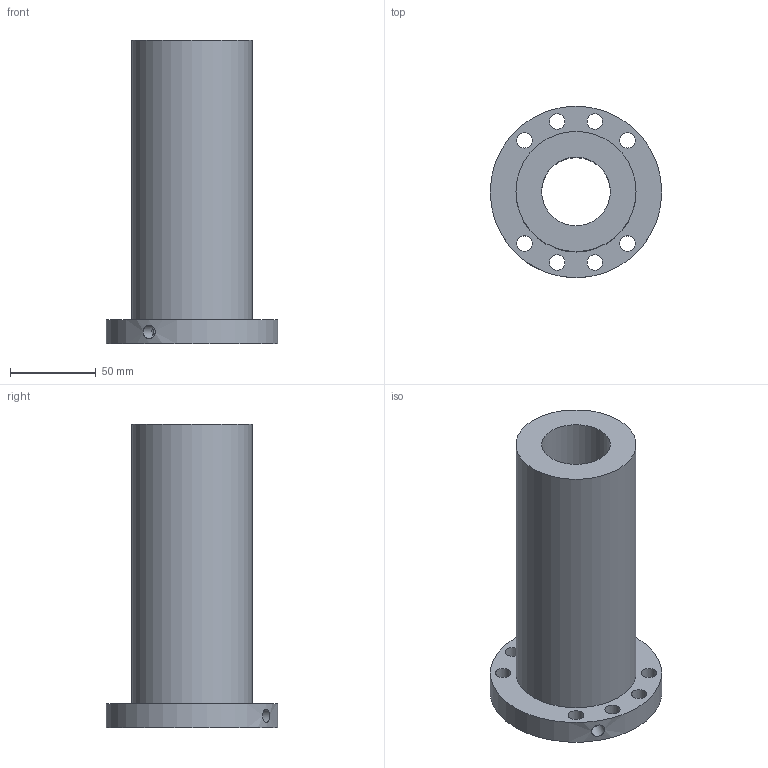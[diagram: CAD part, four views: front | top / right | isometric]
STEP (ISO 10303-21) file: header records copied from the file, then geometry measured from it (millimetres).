
FILE_DESCRIPTION(/* description */ (''),/* implementation_level */ '2;1');
FILE_NAME(/* name */ '40-12K5_635',/* time_stamp */ '2007-10-15T12:53:57+08:00',/* author */ (''),/* organization */ (''),/* preprocessor_version */ 'ST-DEVELOPER v11',/* originating_system */ 'UGS - NX 5.0',/* authorisation */ '');
FILE_SCHEMA (('CONFIG_CONTROL_DESIGN'));
Length unit declared in the file: millimetre
Products named in the file (1): 40-12K5_635
Bounding box: 100 x 100 x 177 mm (x, y, z)
Volume: 506636.1 mm3; surface area: 78401.6 mm2
Topology: 1 solids, 1 shells, 17 faces, 40 edges, 27 vertices
Faces by surface type: cylinder 13, plane 4
Full cylindrical faces by diameter (mm): 6 x1, 8 x1, 9 x8, 40 x1, 70 x1, 100 x1
Entity records: 668 total; most frequent: CARTESIAN_POINT 184, DIRECTION 84, FACE_BOUND 52, EDGE_LOOP 52, ORIENTED_EDGE 52, AXIS2_PLACEMENT_3D 42, VERTEX_POINT 26, EDGE_CURVE 26
